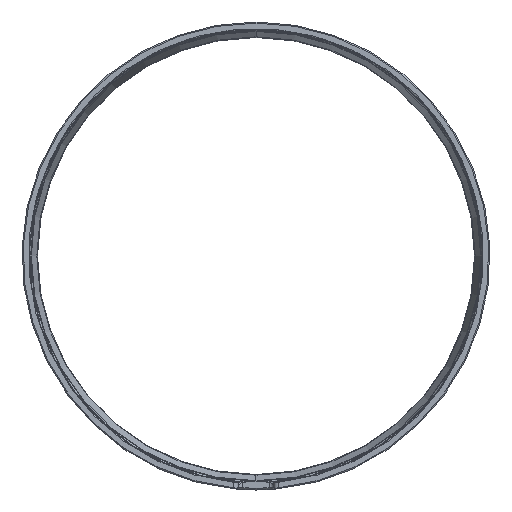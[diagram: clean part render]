
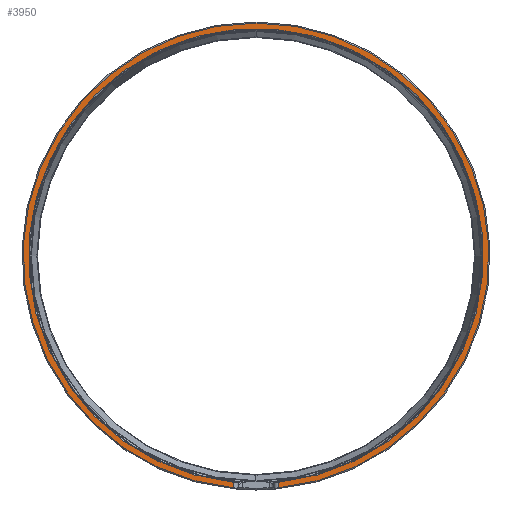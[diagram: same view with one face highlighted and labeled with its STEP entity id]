
A CAD part, left-side view. The second image highlights one B-rep face of the part: STEP entity #3950.
In plain terms, the highlighted planar face has unit normal (-1, 0, 0).
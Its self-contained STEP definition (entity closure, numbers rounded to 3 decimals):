
#81 = EDGE_CURVE ( 'NONE', #728, #3025, #584, .T. ) ;
#198 = VERTEX_POINT ( 'NONE', #3517 ) ;
#299 = DIRECTION ( 'NONE',  ( -1., 0., 0. ) ) ;
#521 = CARTESIAN_POINT ( 'NONE',  ( -500., 0., 106.6 ) ) ;
#546 = AXIS2_PLACEMENT_3D ( 'NONE', #1643, #4555, #4974 ) ;
#584 = CIRCLE ( 'NONE', #1912, 106.6 ) ;
#728 = VERTEX_POINT ( 'NONE', #4549 ) ;
#830 = VERTEX_POINT ( 'NONE', #2471 ) ;
#1310 = DIRECTION ( 'NONE',  ( 0., 0., 1. ) ) ;
#1431 = AXIS2_PLACEMENT_3D ( 'NONE', #5373, #299, #3702 ) ;
#1541 = FACE_OUTER_BOUND ( 'NONE', #1942, .T. ) ;
#1643 = CARTESIAN_POINT ( 'NONE',  ( -500., 0., 0. ) ) ;
#1912 = AXIS2_PLACEMENT_3D ( 'NONE', #2829, #3289, #5014 ) ;
#1942 = EDGE_LOOP ( 'NONE', ( #2322, #3534, #3523, #3463, #4116 ) ) ;
#2086 = LINE ( 'NONE', #3773, #5454 ) ;
#2322 = ORIENTED_EDGE ( 'NONE', *, *, #4254, .F. ) ;
#2404 = CIRCLE ( 'NONE', #2757, 104.075 ) ;
#2471 = CARTESIAN_POINT ( 'NONE',  ( -500., -10.2, -103.574 ) ) ;
#2757 = AXIS2_PLACEMENT_3D ( 'NONE', #3196, #3409, #3322 ) ;
#2829 = CARTESIAN_POINT ( 'NONE',  ( -500., 0., 0. ) ) ;
#3025 = VERTEX_POINT ( 'NONE', #521 ) ;
#3196 = CARTESIAN_POINT ( 'NONE',  ( -500., 0., 0. ) ) ;
#3253 = PLANE ( 'NONE',  #546 ) ;
#3289 = DIRECTION ( 'NONE',  ( -1., 0., 0. ) ) ;
#3322 = DIRECTION ( 'NONE',  ( 0., 0., 1. ) ) ;
#3409 = DIRECTION ( 'NONE',  ( -1., 0., 0. ) ) ;
#3461 = CIRCLE ( 'NONE', #1431, 106.6 ) ;
#3463 = ORIENTED_EDGE ( 'NONE', *, *, #5262, .T. ) ;
#3517 = CARTESIAN_POINT ( 'NONE',  ( -500., 10.2, -106.111 ) ) ;
#3523 = ORIENTED_EDGE ( 'NONE', *, *, #4749, .T. ) ;
#3533 = CARTESIAN_POINT ( 'NONE',  ( -500., 10.2, -107.1 ) ) ;
#3534 = ORIENTED_EDGE ( 'NONE', *, *, #81, .T. ) ;
#3606 = VERTEX_POINT ( 'NONE', #4776 ) ;
#3702 = DIRECTION ( 'NONE',  ( 0., 0., 1. ) ) ;
#3773 = CARTESIAN_POINT ( 'NONE',  ( -500., -10.2, -107.1 ) ) ;
#3950 = ADVANCED_FACE ( 'NONE', ( #1541 ), #3253, .T. ) ;
#4116 = ORIENTED_EDGE ( 'NONE', *, *, #4223, .F. ) ;
#4223 = EDGE_CURVE ( 'NONE', #830, #3606, #2404, .T. ) ;
#4254 = EDGE_CURVE ( 'NONE', #728, #830, #2086, .T. ) ;
#4287 = DIRECTION ( 'NONE',  ( 0., 0., 1. ) ) ;
#4386 = LINE ( 'NONE', #3533, #5005 ) ;
#4549 = CARTESIAN_POINT ( 'NONE',  ( -500., -10.2, -106.111 ) ) ;
#4555 = DIRECTION ( 'NONE',  ( -1., 0., 0. ) ) ;
#4749 = EDGE_CURVE ( 'NONE', #3025, #198, #3461, .T. ) ;
#4776 = CARTESIAN_POINT ( 'NONE',  ( -500., 10.2, -103.574 ) ) ;
#4974 = DIRECTION ( 'NONE',  ( 0., 0., -1. ) ) ;
#5005 = VECTOR ( 'NONE', #1310, 1000. ) ;
#5014 = DIRECTION ( 'NONE',  ( 0., 0., 1. ) ) ;
#5262 = EDGE_CURVE ( 'NONE', #198, #3606, #4386, .T. ) ;
#5373 = CARTESIAN_POINT ( 'NONE',  ( -500., 0., 0. ) ) ;
#5454 = VECTOR ( 'NONE', #4287, 1000. ) ;
